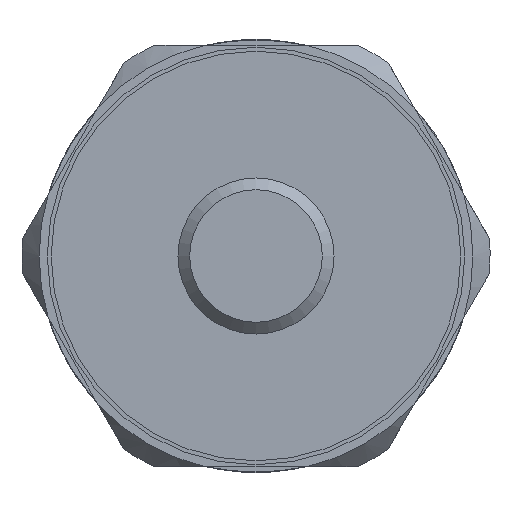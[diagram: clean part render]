
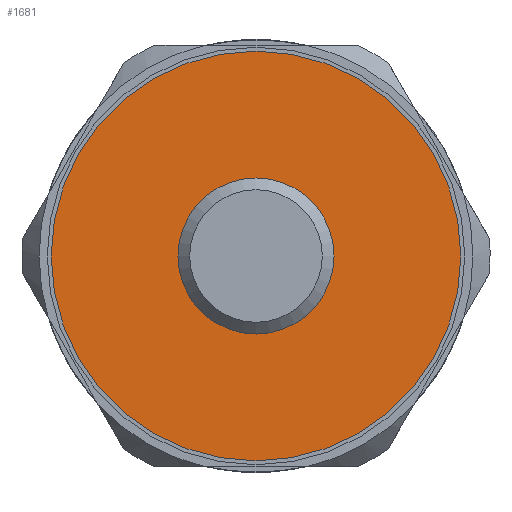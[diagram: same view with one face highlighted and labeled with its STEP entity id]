
A CAD part, left-side view. The second image highlights one B-rep face of the part: STEP entity #1681.
In plain terms, the highlighted planar face has unit normal (-1, 0, 0).
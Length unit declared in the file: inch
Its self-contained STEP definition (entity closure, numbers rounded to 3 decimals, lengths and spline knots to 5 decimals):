
#89=FACE_BOUND('',#276,.T.);
#122=PLANE('',#1834);
#178=FACE_OUTER_BOUND('',#275,.T.);
#275=EDGE_LOOP('',(#1212,#1213));
#276=EDGE_LOOP('',(#1214,#1215));
#506=CIRCLE('',#1779,0.14764);
#507=CIRCLE('',#1780,0.14764);
#536=CIRCLE('',#1835,0.41339);
#537=CIRCLE('',#1836,0.41339);
#643=VERTEX_POINT('',#2552);
#644=VERTEX_POINT('',#2553);
#697=VERTEX_POINT('',#2761);
#698=VERTEX_POINT('',#2762);
#815=EDGE_CURVE('',#643,#644,#506,.T.);
#816=EDGE_CURVE('',#644,#643,#507,.T.);
#896=EDGE_CURVE('',#697,#698,#536,.T.);
#897=EDGE_CURVE('',#698,#697,#537,.T.);
#1212=ORIENTED_EDGE('',*,*,#896,.T.);
#1213=ORIENTED_EDGE('',*,*,#897,.T.);
#1214=ORIENTED_EDGE('',*,*,#815,.T.);
#1215=ORIENTED_EDGE('',*,*,#816,.T.);
#1681=ADVANCED_FACE('',(#178,#89),#122,.T.);
#1779=AXIS2_PLACEMENT_3D('',#2554,#2021,#2022);
#1780=AXIS2_PLACEMENT_3D('',#2555,#2023,#2024);
#1834=AXIS2_PLACEMENT_3D('',#2760,#2158,#2159);
#1835=AXIS2_PLACEMENT_3D('',#2763,#2160,#2161);
#1836=AXIS2_PLACEMENT_3D('',#2764,#2162,#2163);
#2021=DIRECTION('center_axis',(1.,0.,0.));
#2022=DIRECTION('ref_axis',(0.,0.866,-0.5));
#2023=DIRECTION('center_axis',(1.,0.,0.));
#2024=DIRECTION('ref_axis',(0.,0.866,-0.5));
#2158=DIRECTION('center_axis',(-1.,0.,0.));
#2159=DIRECTION('ref_axis',(0.,0.866,-0.5));
#2160=DIRECTION('center_axis',(-1.,0.,0.));
#2161=DIRECTION('ref_axis',(0.,0.866,-0.5));
#2162=DIRECTION('center_axis',(-1.,0.,0.));
#2163=DIRECTION('ref_axis',(0.,0.866,-0.5));
#2552=CARTESIAN_POINT('',(-2.25408,0.22916,-0.41816));
#2553=CARTESIAN_POINT('',(-2.25408,-0.02656,-0.27052));
#2554=CARTESIAN_POINT('Origin',(-2.25408,0.1013,-0.34434));
#2555=CARTESIAN_POINT('Origin',(-2.25408,0.1013,-0.34434));
#2760=CARTESIAN_POINT('Origin',(-2.25408,0.1013,-0.34434));
#2761=CARTESIAN_POINT('',(-2.25408,0.4593,-0.55103));
#2762=CARTESIAN_POINT('',(-2.25408,-0.2567,-0.13765));
#2763=CARTESIAN_POINT('Origin',(-2.25408,0.1013,-0.34434));
#2764=CARTESIAN_POINT('Origin',(-2.25408,0.1013,-0.34434));
